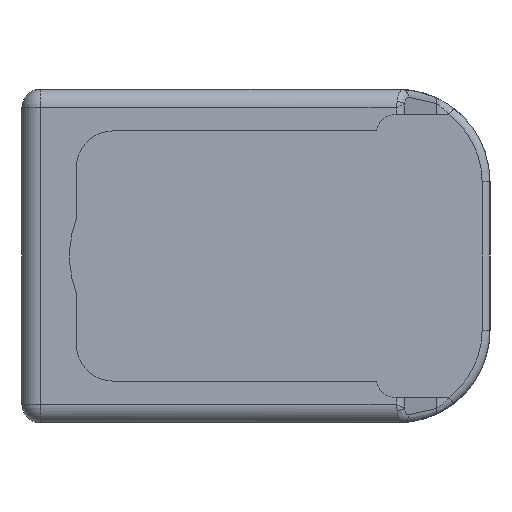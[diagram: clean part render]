
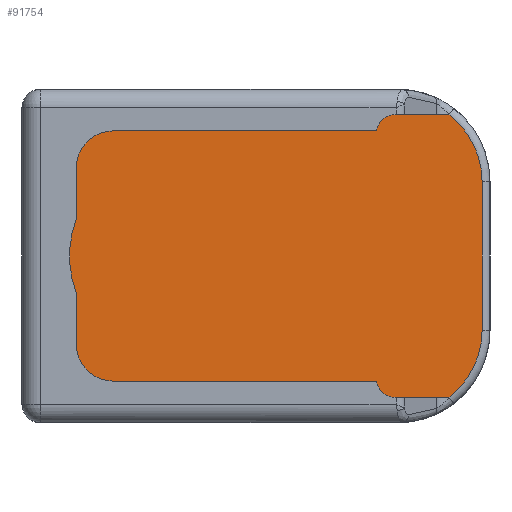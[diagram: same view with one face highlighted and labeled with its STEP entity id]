
A CAD part, left-side view. The second image highlights one B-rep face of the part: STEP entity #91754.
In plain terms, the highlighted planar face has unit normal (-1, 0, 0).
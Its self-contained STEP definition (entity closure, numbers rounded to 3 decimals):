
#2532 = DIRECTION ( 'NONE',  ( 0., 0., 1. ) ) ;
#3053 = VECTOR ( 'NONE', #47863, 1000. ) ;
#4729 = DIRECTION ( 'NONE',  ( -1., 0., 0. ) ) ;
#4741 = CARTESIAN_POINT ( 'NONE',  ( -329.6, -68.5, 27. ) ) ;
#8296 = EDGE_CURVE ( 'NONE', #77368, #56881, #75548, .T. ) ;
#10100 = CIRCLE ( 'NONE', #23968, 22.25 ) ;
#10197 = ORIENTED_EDGE ( 'NONE', *, *, #28760, .T. ) ;
#11011 = EDGE_CURVE ( 'NONE', #44738, #37972, #27091, .T. ) ;
#11457 = LINE ( 'NONE', #26675, #48718 ) ;
#11625 = ORIENTED_EDGE ( 'NONE', *, *, #25685, .T. ) ;
#12424 = CARTESIAN_POINT ( 'NONE',  ( -329.6, -66.8, 16. ) ) ;
#12590 = EDGE_CURVE ( 'NONE', #35322, #18152, #94327, .T. ) ;
#13008 = CARTESIAN_POINT ( 'NONE',  ( -329.6, -66.8, 27. ) ) ;
#13841 = EDGE_CURVE ( 'NONE', #76052, #70539, #29554, .T. ) ;
#14153 = EDGE_CURVE ( 'NONE', #76052, #57377, #11457, .T. ) ;
#14827 = CARTESIAN_POINT ( 'NONE',  ( -329.6, -59.648, 27. ) ) ;
#16572 = CARTESIAN_POINT ( 'NONE',  ( -329.6, 20.8, 20.75 ) ) ;
#16862 = ORIENTED_EDGE ( 'NONE', *, *, #83604, .F. ) ;
#18152 = VERTEX_POINT ( 'NONE', #64664 ) ;
#19909 = DIRECTION ( 'NONE',  ( -1., 0., 0. ) ) ;
#21595 = ORIENTED_EDGE ( 'NONE', *, *, #56500, .T. ) ;
#23149 = VECTOR ( 'NONE', #69888, 1000. ) ;
#23640 = DIRECTION ( 'NONE',  ( 0., 0., -1. ) ) ;
#23968 = AXIS2_PLACEMENT_3D ( 'NONE', #79243, #78194, #45714 ) ;
#25685 = EDGE_CURVE ( 'NONE', #62161, #37972, #31850, .T. ) ;
#26675 = CARTESIAN_POINT ( 'NONE',  ( -329.6, 20.8, -30.5 ) ) ;
#27091 = LINE ( 'NONE', #52530, #33499 ) ;
#27841 = CIRCLE ( 'NONE', #69330, 18.3 ) ;
#28127 = ORIENTED_EDGE ( 'NONE', *, *, #100705, .T. ) ;
#28760 = EDGE_CURVE ( 'NONE', #57377, #35322, #63554, .T. ) ;
#29554 = CIRCLE ( 'NONE', #36540, 9.75 ) ;
#30210 = DIRECTION ( 'NONE',  ( 0., 0., -1. ) ) ;
#31850 = CIRCLE ( 'NONE', #94011, 9.75 ) ;
#33081 = LINE ( 'NONE', #64494, #96588 ) ;
#33499 = VECTOR ( 'NONE', #92542, 1000. ) ;
#34503 = CARTESIAN_POINT ( 'NONE',  ( -329.6, 11.05, -20.75 ) ) ;
#35200 = VERTEX_POINT ( 'NONE', #53924 ) ;
#35322 = VERTEX_POINT ( 'NONE', #89562 ) ;
#36540 = AXIS2_PLACEMENT_3D ( 'NONE', #34503, #83202, #2532 ) ;
#37972 = VERTEX_POINT ( 'NONE', #16572 ) ;
#39046 = ORIENTED_EDGE ( 'NONE', *, *, #52702, .F. ) ;
#39388 = CARTESIAN_POINT ( 'NONE',  ( -329.6, -48.5, 16. ) ) ;
#39656 = ORIENTED_EDGE ( 'NONE', *, *, #12590, .T. ) ;
#42385 = ORIENTED_EDGE ( 'NONE', *, *, #8296, .T. ) ;
#44001 = DIRECTION ( 'NONE',  ( 0., -1., 0. ) ) ;
#44738 = VERTEX_POINT ( 'NONE', #87042 ) ;
#45714 = DIRECTION ( 'NONE',  ( 0., -1., 0. ) ) ;
#46946 = CARTESIAN_POINT ( 'NONE',  ( -329.6, 11.05, 20.75 ) ) ;
#46964 = CARTESIAN_POINT ( 'NONE',  ( -329.6, 11.05, -30.5 ) ) ;
#47783 = CARTESIAN_POINT ( 'NONE',  ( -329.6, 11.05, 30.5 ) ) ;
#47863 = DIRECTION ( 'NONE',  ( 0., 0., -1. ) ) ;
#47970 = DIRECTION ( 'NONE',  ( 0., 0., -1. ) ) ;
#48165 = DIRECTION ( 'NONE',  ( 0., -1., 0. ) ) ;
#48718 = VECTOR ( 'NONE', #44001, 1000. ) ;
#50614 = CARTESIAN_POINT ( 'NONE',  ( -329.6, -59.648, 27. ) ) ;
#52530 = CARTESIAN_POINT ( 'NONE',  ( -329.6, 20.8, -30.5 ) ) ;
#52702 = EDGE_CURVE ( 'NONE', #62161, #56881, #98473, .T. ) ;
#52732 = ORIENTED_EDGE ( 'NONE', *, *, #14153, .T. ) ;
#53924 = CARTESIAN_POINT ( 'NONE',  ( -329.6, 20.8, -7.901 ) ) ;
#54590 = AXIS2_PLACEMENT_3D ( 'NONE', #72862, #104206, #47970 ) ;
#55590 = DIRECTION ( 'NONE',  ( 0., 0., -1. ) ) ;
#56500 = EDGE_CURVE ( 'NONE', #18152, #105083, #78014, .T. ) ;
#56881 = VERTEX_POINT ( 'NONE', #75975 ) ;
#57377 = VERTEX_POINT ( 'NONE', #67562 ) ;
#61082 = FACE_OUTER_BOUND ( 'NONE', #79691, .T. ) ;
#62161 = VERTEX_POINT ( 'NONE', #47783 ) ;
#63554 = LINE ( 'NONE', #14827, #3053 ) ;
#64494 = CARTESIAN_POINT ( 'NONE',  ( -329.6, 20.8, -30.5 ) ) ;
#64664 = CARTESIAN_POINT ( 'NONE',  ( -329.6, -66.8, -16. ) ) ;
#67562 = CARTESIAN_POINT ( 'NONE',  ( -329.6, -59.648, -30.5 ) ) ;
#69330 = AXIS2_PLACEMENT_3D ( 'NONE', #39388, #4729, #23640 ) ;
#69888 = DIRECTION ( 'NONE',  ( 0., 0., 1. ) ) ;
#70539 = VERTEX_POINT ( 'NONE', #98474 ) ;
#72862 = CARTESIAN_POINT ( 'NONE',  ( -329.6, -48.5, -16. ) ) ;
#74516 = ORIENTED_EDGE ( 'NONE', *, *, #99263, .F. ) ;
#75548 = LINE ( 'NONE', #50614, #76639 ) ;
#75975 = CARTESIAN_POINT ( 'NONE',  ( -329.6, -59.648, 30.5 ) ) ;
#76052 = VERTEX_POINT ( 'NONE', #46964 ) ;
#76639 = VECTOR ( 'NONE', #85198, 1000. ) ;
#77368 = VERTEX_POINT ( 'NONE', #106879 ) ;
#78014 = LINE ( 'NONE', #13008, #23149 ) ;
#78194 = DIRECTION ( 'NONE',  ( 1., 0., 0. ) ) ;
#79243 = CARTESIAN_POINT ( 'NONE',  ( -329.6, 0., 0. ) ) ;
#79691 = EDGE_LOOP ( 'NONE', ( #99069, #16862, #74516, #97554, #52732, #10197, #39656, #21595, #28127, #42385, #39046, #11625 ) ) ;
#81168 = VECTOR ( 'NONE', #48165, 1000. ) ;
#81235 = DIRECTION ( 'NONE',  ( 0., 0., 1. ) ) ;
#83202 = DIRECTION ( 'NONE',  ( 1., 0., 0. ) ) ;
#83604 = EDGE_CURVE ( 'NONE', #35200, #44738, #10100, .T. ) ;
#85198 = DIRECTION ( 'NONE',  ( 0., 0., -1. ) ) ;
#86468 = PLANE ( 'NONE',  #87079 ) ;
#87042 = CARTESIAN_POINT ( 'NONE',  ( -329.6, 20.8, 7.901 ) ) ;
#87079 = AXIS2_PLACEMENT_3D ( 'NONE', #4741, #19909, #30210 ) ;
#89259 = CARTESIAN_POINT ( 'NONE',  ( -329.6, 20.8, 30.5 ) ) ;
#89562 = CARTESIAN_POINT ( 'NONE',  ( -329.6, -59.648, -30.512 ) ) ;
#91754 = ADVANCED_FACE ( 'NONE', ( #61082 ), #86468, .T. ) ;
#92542 = DIRECTION ( 'NONE',  ( 0., 0., 1. ) ) ;
#94011 = AXIS2_PLACEMENT_3D ( 'NONE', #46946, #104777, #55590 ) ;
#94327 = CIRCLE ( 'NONE', #54590, 18.3 ) ;
#96588 = VECTOR ( 'NONE', #81235, 1000. ) ;
#97554 = ORIENTED_EDGE ( 'NONE', *, *, #13841, .F. ) ;
#98473 = LINE ( 'NONE', #89259, #81168 ) ;
#98474 = CARTESIAN_POINT ( 'NONE',  ( -329.6, 20.8, -20.75 ) ) ;
#99069 = ORIENTED_EDGE ( 'NONE', *, *, #11011, .F. ) ;
#99263 = EDGE_CURVE ( 'NONE', #70539, #35200, #33081, .T. ) ;
#100705 = EDGE_CURVE ( 'NONE', #105083, #77368, #27841, .T. ) ;
#104206 = DIRECTION ( 'NONE',  ( -1., 0., 0. ) ) ;
#104777 = DIRECTION ( 'NONE',  ( -1., 0., 0. ) ) ;
#105083 = VERTEX_POINT ( 'NONE', #12424 ) ;
#106879 = CARTESIAN_POINT ( 'NONE',  ( -329.6, -59.648, 30.512 ) ) ;
